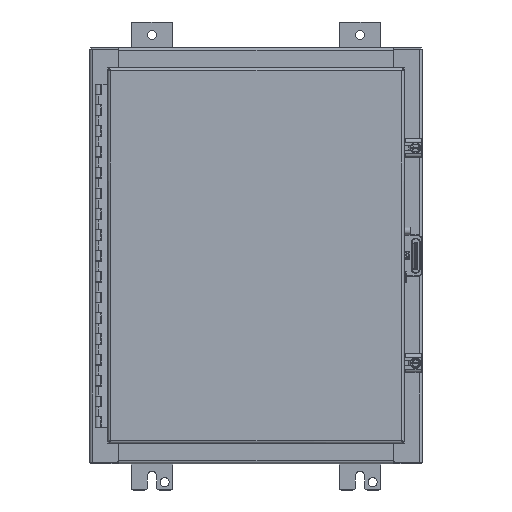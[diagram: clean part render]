
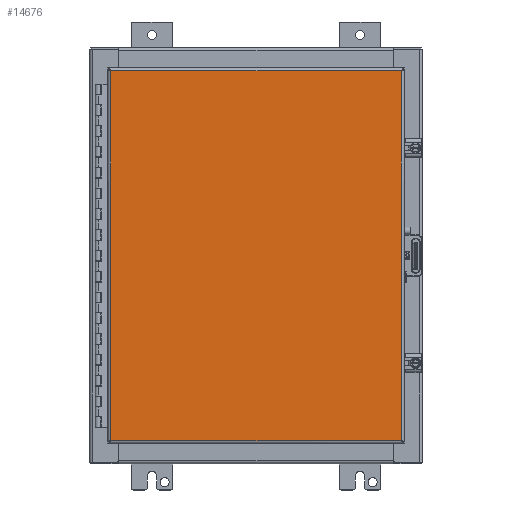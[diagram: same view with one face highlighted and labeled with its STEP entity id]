
A CAD part, top view. The second image highlights one B-rep face of the part: STEP entity #14676.
In plain terms, the highlighted planar face has unit normal (0, 0, 1) as drawn and (0, 1, 0) by its records, which use the part's own axes.
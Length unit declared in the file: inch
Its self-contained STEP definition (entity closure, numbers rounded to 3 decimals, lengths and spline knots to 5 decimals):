
#13161=DIRECTION('',(0.,0.,1.));
#13162=VECTOR('',#13161,13.96);
#13163=CARTESIAN_POINT('',(-8.88638,0.,0.145));
#13164=LINE('',#13163,#13162);
#13217=DIRECTION('',(0.,0.,1.));
#13218=VECTOR('',#13217,13.96);
#13219=CARTESIAN_POINT('',(8.88638,0.,0.145));
#13220=LINE('',#13219,#13218);
#13331=DIRECTION('',(-1.,0.,0.));
#13332=VECTOR('',#13331,17.77275);
#13333=CARTESIAN_POINT('',(8.88638,0.,0.145));
#13334=LINE('',#13333,#13332);
#13847=DIRECTION('',(-1.,0.,0.));
#13848=VECTOR('',#13847,17.77275);
#13849=CARTESIAN_POINT('',(8.88638,0.,14.105));
#13850=LINE('',#13849,#13848);
#14075=CARTESIAN_POINT('',(8.88638,0.,0.145));
#14076=CARTESIAN_POINT('',(-8.88638,0.,0.145));
#14077=VERTEX_POINT('',#14075);
#14078=VERTEX_POINT('',#14076);
#14079=CARTESIAN_POINT('',(8.88638,0.,14.105));
#14080=CARTESIAN_POINT('',(-8.88638,0.,14.105));
#14081=VERTEX_POINT('',#14079);
#14082=VERTEX_POINT('',#14080);
#14662=CARTESIAN_POINT('',(9.03138,0.,0.));
#14663=DIRECTION('',(0.,1.,0.));
#14664=DIRECTION('',(-1.,0.,0.));
#14665=AXIS2_PLACEMENT_3D('',#14662,#14663,#14664);
#14666=PLANE('',#14665);
#14668=ORIENTED_EDGE('',*,*,#14667,.T.);
#14670=ORIENTED_EDGE('',*,*,#14669,.T.);
#14671=ORIENTED_EDGE('',*,*,#14652,.F.);
#14673=ORIENTED_EDGE('',*,*,#14672,.F.);
#14674=EDGE_LOOP('',(#14668,#14670,#14671,#14673));
#14675=FACE_OUTER_BOUND('',#14674,.F.);
#14652=EDGE_CURVE('',#14078,#14082,#13164,.T.);
#14667=EDGE_CURVE('',#14077,#14081,#13220,.T.);
#14669=EDGE_CURVE('',#14081,#14082,#13850,.T.);
#14672=EDGE_CURVE('',#14077,#14078,#13334,.T.);
#14676=ADVANCED_FACE('',(#14675),#14666,.T.);
